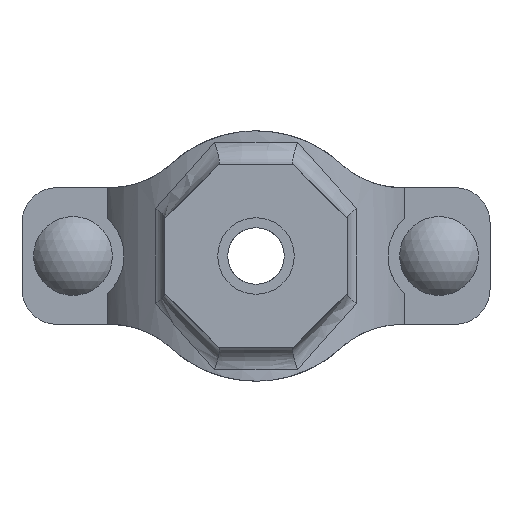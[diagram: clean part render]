
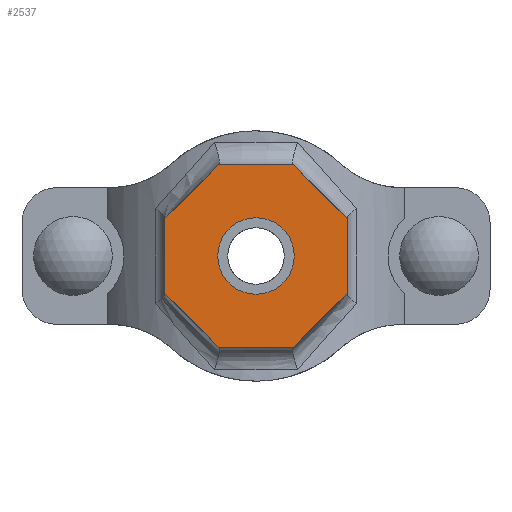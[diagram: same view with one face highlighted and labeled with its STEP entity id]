
A CAD part, front view. The second image highlights one B-rep face of the part: STEP entity #2537.
In plain terms, the highlighted planar face has unit normal (0, -1, 0) as drawn and (0, 1, 0) by its records, which use the part's own axes.
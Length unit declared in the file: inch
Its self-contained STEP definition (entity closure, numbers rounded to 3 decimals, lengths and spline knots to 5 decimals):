
#186=FACE_BOUND('',#457,.T.);
#305=FACE_OUTER_BOUND('',#456,.T.);
#456=EDGE_LOOP('',(#2128,#2129,#2130,#2131,#2132,#2133,#2134,#2135));
#457=EDGE_LOOP('',(#2136));
#594=LINE('',#4585,#780);
#597=LINE('',#4590,#783);
#599=LINE('',#4594,#785);
#601=LINE('',#4598,#787);
#637=LINE('',#4975,#823);
#639=LINE('',#4979,#825);
#641=LINE('',#4983,#827);
#643=LINE('',#4986,#829);
#780=VECTOR('',#3278,0.3937);
#783=VECTOR('',#3283,0.3937);
#785=VECTOR('',#3287,0.3937);
#787=VECTOR('',#3291,0.3937);
#823=VECTOR('',#3419,0.3937);
#825=VECTOR('',#3423,0.3937);
#827=VECTOR('',#3427,0.3937);
#829=VECTOR('',#3431,0.3937);
#919=CIRCLE('',#2802,0.42);
#1097=VERTEX_POINT('',#4582);
#1098=VERTEX_POINT('',#4584);
#1099=VERTEX_POINT('',#4588);
#1100=VERTEX_POINT('',#4592);
#1101=VERTEX_POINT('',#4596);
#1136=VERTEX_POINT('',#4828);
#1158=VERTEX_POINT('',#4974);
#1159=VERTEX_POINT('',#4978);
#1160=VERTEX_POINT('',#4982);
#1408=EDGE_CURVE('',#1098,#1097,#594,.T.);
#1411=EDGE_CURVE('',#1097,#1099,#597,.T.);
#1413=EDGE_CURVE('',#1099,#1100,#599,.T.);
#1415=EDGE_CURVE('',#1100,#1101,#601,.T.);
#1461=EDGE_CURVE('',#1136,#1136,#919,.T.);
#1491=EDGE_CURVE('',#1158,#1098,#637,.T.);
#1493=EDGE_CURVE('',#1159,#1158,#639,.T.);
#1495=EDGE_CURVE('',#1160,#1159,#641,.T.);
#1497=EDGE_CURVE('',#1101,#1160,#643,.T.);
#2128=ORIENTED_EDGE('',*,*,#1497,.T.);
#2129=ORIENTED_EDGE('',*,*,#1495,.T.);
#2130=ORIENTED_EDGE('',*,*,#1493,.T.);
#2131=ORIENTED_EDGE('',*,*,#1491,.T.);
#2132=ORIENTED_EDGE('',*,*,#1408,.T.);
#2133=ORIENTED_EDGE('',*,*,#1411,.T.);
#2134=ORIENTED_EDGE('',*,*,#1413,.T.);
#2135=ORIENTED_EDGE('',*,*,#1415,.T.);
#2136=ORIENTED_EDGE('',*,*,#1461,.T.);
#2278=PLANE('',#2823);
#2537=ADVANCED_FACE('',(#305,#186),#2278,.T.);
#2802=AXIS2_PLACEMENT_3D('',#4829,#3369,#3370);
#2823=AXIS2_PLACEMENT_3D('',#4987,#3432,#3433);
#3278=DIRECTION('',(0.,0.,1.));
#3283=DIRECTION('',(0.707,0.,0.707));
#3287=DIRECTION('',(1.,0.,0.));
#3291=DIRECTION('',(0.707,0.,-0.707));
#3369=DIRECTION('center_axis',(0.,-1.,0.));
#3370=DIRECTION('ref_axis',(-1.,0.,0.));
#3419=DIRECTION('',(-0.707,0.,0.707));
#3423=DIRECTION('',(-1.,0.,0.));
#3427=DIRECTION('',(-0.707,0.,-0.707));
#3431=DIRECTION('',(0.,0.,-1.));
#3432=DIRECTION('center_axis',(0.,1.,0.));
#3433=DIRECTION('ref_axis',(0.,0.,1.));
#4582=CARTESIAN_POINT('',(-1.,2.74,0.41421));
#4584=CARTESIAN_POINT('',(-1.,2.74,-0.41421));
#4585=CARTESIAN_POINT('',(-1.,2.74,0.41421));
#4588=CARTESIAN_POINT('',(-0.41421,2.74,1.));
#4590=CARTESIAN_POINT('',(-0.41421,2.74,1.));
#4592=CARTESIAN_POINT('',(0.41421,2.74,1.));
#4594=CARTESIAN_POINT('',(0.41421,2.74,1.));
#4596=CARTESIAN_POINT('',(1.,2.74,0.41421));
#4598=CARTESIAN_POINT('',(1.,2.74,0.41421));
#4828=CARTESIAN_POINT('',(0.42,2.74,0.));
#4829=CARTESIAN_POINT('Origin',(0.,2.74,0.));
#4974=CARTESIAN_POINT('',(-0.41421,2.74,-1.));
#4975=CARTESIAN_POINT('',(-1.,2.74,-0.41421));
#4978=CARTESIAN_POINT('',(0.41421,2.74,-1.));
#4979=CARTESIAN_POINT('',(-0.41421,2.74,-1.));
#4982=CARTESIAN_POINT('',(1.,2.74,-0.41421));
#4983=CARTESIAN_POINT('',(0.41421,2.74,-1.));
#4986=CARTESIAN_POINT('',(1.,2.74,-0.41421));
#4987=CARTESIAN_POINT('Origin',(0.,2.74,0.));
